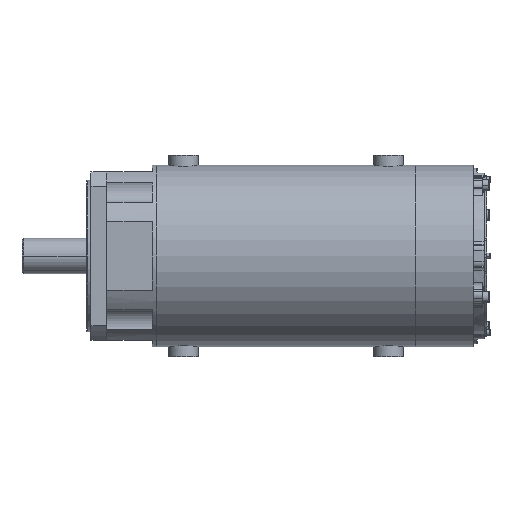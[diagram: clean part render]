
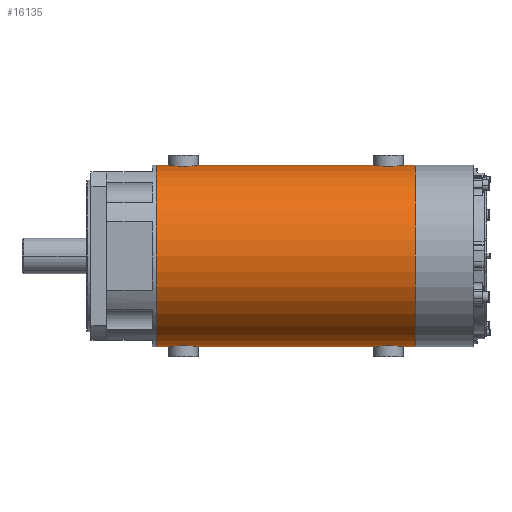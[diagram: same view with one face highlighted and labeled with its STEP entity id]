
A CAD part, front view. The second image highlights one B-rep face of the part: STEP entity #16135.
In plain terms, the highlighted cylindrical face has radius 108 mm (diameter 216 mm), a partial arc.
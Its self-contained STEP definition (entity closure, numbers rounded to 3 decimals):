
#10952=CARTESIAN_POINT('',(120.,0.,108.));
#10953=CARTESIAN_POINT('',(120.,-0.804,108.));
#10954=CARTESIAN_POINT('',(119.817,-2.372,
107.983));
#10955=CARTESIAN_POINT('',(118.927,-4.73,
107.904));
#10956=CARTESIAN_POINT('',(117.531,-6.728,
107.795));
#10957=CARTESIAN_POINT('',(115.671,-8.356,
107.679));
#10958=CARTESIAN_POINT('',(113.514,-9.469,
107.585));
#10959=CARTESIAN_POINT('',(111.087,-10.04,
107.532));
#10960=CARTESIAN_POINT('',(108.683,-10.011,
107.535));
#10961=CARTESIAN_POINT('',(106.305,-9.396,
107.592));
#10962=CARTESIAN_POINT('',(104.209,-8.269,
107.686));
#10963=CARTESIAN_POINT('',(102.401,-6.647,
107.8));
#10964=CARTESIAN_POINT('',(101.04,-4.662,
107.907));
#10965=CARTESIAN_POINT('',(100.174,-2.324,
107.984));
#10966=CARTESIAN_POINT('',(100.,-0.785,108.));
#10967=CARTESIAN_POINT('',(100.,0.,108.));
#10969=CARTESIAN_POINT('',(364.,0.,108.));
#10970=CARTESIAN_POINT('',(364.,-0.804,108.));
#10971=CARTESIAN_POINT('',(363.817,-2.372,
107.983));
#10972=CARTESIAN_POINT('',(362.927,-4.73,
107.904));
#10973=CARTESIAN_POINT('',(361.531,-6.728,
107.795));
#10974=CARTESIAN_POINT('',(359.671,-8.356,
107.679));
#10975=CARTESIAN_POINT('',(357.514,-9.469,
107.585));
#10976=CARTESIAN_POINT('',(355.087,-10.04,
107.532));
#10977=CARTESIAN_POINT('',(352.683,-10.011,
107.535));
#10978=CARTESIAN_POINT('',(350.305,-9.396,
107.592));
#10979=CARTESIAN_POINT('',(348.209,-8.269,
107.686));
#10980=CARTESIAN_POINT('',(346.401,-6.647,
107.8));
#10981=CARTESIAN_POINT('',(345.04,-4.662,
107.907));
#10982=CARTESIAN_POINT('',(344.174,-2.324,
107.984));
#10983=CARTESIAN_POINT('',(344.,-0.785,108.));
#10984=CARTESIAN_POINT('',(344.,0.,108.));
#10986=CARTESIAN_POINT('',(386.,0.,0.));
#10987=DIRECTION('',(1.,0.,0.));
#10988=DIRECTION('',(0.,0.,1.));
#10989=AXIS2_PLACEMENT_3D('',#10986,#10987,#10988);
#10991=DIRECTION('',(-1.,0.,0.));
#10992=VECTOR('',#10991,22.);
#10993=CARTESIAN_POINT('',(386.,0.,-108.));
#10994=LINE('',#10993,#10992);
#10995=CARTESIAN_POINT('',(344.,0.,-108.));
#10996=CARTESIAN_POINT('',(344.,-0.786,-108.));
#10997=CARTESIAN_POINT('',(344.175,-2.326,
-107.984));
#10998=CARTESIAN_POINT('',(345.039,-4.661,
-107.907));
#10999=CARTESIAN_POINT('',(346.401,-6.647,
-107.8));
#11000=CARTESIAN_POINT('',(348.209,-8.269,
-107.686));
#11001=CARTESIAN_POINT('',(350.305,-9.396,
-107.592));
#11002=CARTESIAN_POINT('',(352.683,-10.011,
-107.535));
#11003=CARTESIAN_POINT('',(355.086,-10.04,
-107.532));
#11004=CARTESIAN_POINT('',(357.514,-9.47,
-107.585));
#11005=CARTESIAN_POINT('',(359.671,-8.356,
-107.679));
#11006=CARTESIAN_POINT('',(361.531,-6.728,
-107.795));
#11007=CARTESIAN_POINT('',(362.927,-4.73,
-107.904));
#11008=CARTESIAN_POINT('',(363.817,-2.372,
-107.983));
#11009=CARTESIAN_POINT('',(364.,-0.803,-108.));
#11010=CARTESIAN_POINT('',(364.,0.,-108.));
#11012=DIRECTION('',(-1.,0.,0.));
#11013=VECTOR('',#11012,224.);
#11014=CARTESIAN_POINT('',(344.,0.,-108.));
#11015=LINE('',#11014,#11013);
#11016=CARTESIAN_POINT('',(100.,0.,-108.));
#11017=CARTESIAN_POINT('',(100.,-0.786,-108.));
#11018=CARTESIAN_POINT('',(100.175,-2.326,
-107.984));
#11019=CARTESIAN_POINT('',(101.039,-4.661,
-107.907));
#11020=CARTESIAN_POINT('',(102.401,-6.647,
-107.8));
#11021=CARTESIAN_POINT('',(104.209,-8.269,
-107.686));
#11022=CARTESIAN_POINT('',(106.305,-9.396,
-107.592));
#11023=CARTESIAN_POINT('',(108.683,-10.011,
-107.535));
#11024=CARTESIAN_POINT('',(111.086,-10.04,
-107.532));
#11025=CARTESIAN_POINT('',(113.514,-9.47,
-107.585));
#11026=CARTESIAN_POINT('',(115.671,-8.356,
-107.679));
#11027=CARTESIAN_POINT('',(117.531,-6.728,
-107.795));
#11028=CARTESIAN_POINT('',(118.927,-4.73,
-107.904));
#11029=CARTESIAN_POINT('',(119.817,-2.372,
-107.983));
#11030=CARTESIAN_POINT('',(120.,-0.803,-108.));
#11031=CARTESIAN_POINT('',(120.,0.,-108.));
#11033=DIRECTION('',(-1.,0.,0.));
#11034=VECTOR('',#11033,22.);
#11035=CARTESIAN_POINT('',(100.,0.,-108.));
#11036=LINE('',#11035,#11034);
#11037=CARTESIAN_POINT('',(78.,0.,0.));
#11038=DIRECTION('',(-1.,0.,0.));
#11039=DIRECTION('',(0.,0.,-1.));
#11040=AXIS2_PLACEMENT_3D('',#11037,#11038,#11039);
#15661=DIRECTION('',(-1.,0.,0.));
#15662=VECTOR('',#15661,22.);
#15663=CARTESIAN_POINT('',(100.,0.,108.));
#15664=LINE('',#15663,#15662);
#15709=DIRECTION('',(-1.,0.,0.));
#15710=VECTOR('',#15709,22.);
#15711=CARTESIAN_POINT('',(386.,0.,108.));
#15712=LINE('',#15711,#15710);
#15730=DIRECTION('',(-1.,0.,0.));
#15731=VECTOR('',#15730,224.);
#15732=CARTESIAN_POINT('',(344.,0.,108.));
#15733=LINE('',#15732,#15731);
#15770=CARTESIAN_POINT('',(386.,0.,-108.));
#15771=CARTESIAN_POINT('',(386.,0.,108.));
#15772=VERTEX_POINT('',#15770);
#15773=VERTEX_POINT('',#15771);
#15774=CARTESIAN_POINT('',(78.,0.,-108.));
#15775=CARTESIAN_POINT('',(78.,0.,108.));
#15776=VERTEX_POINT('',#15774);
#15777=VERTEX_POINT('',#15775);
#16080=VERTEX_POINT('',#11016);
#16081=VERTEX_POINT('',#11031);
#16082=VERTEX_POINT('',#10995);
#16083=VERTEX_POINT('',#11010);
#16088=CARTESIAN_POINT('',(120.,0.,108.));
#16090=VERTEX_POINT('',#16088);
#16092=CARTESIAN_POINT('',(100.,0.,108.));
#16094=VERTEX_POINT('',#16092);
#16096=CARTESIAN_POINT('',(364.,0.,108.));
#16098=VERTEX_POINT('',#16096);
#16100=CARTESIAN_POINT('',(344.,0.,108.));
#16102=VERTEX_POINT('',#16100);
#16104=CARTESIAN_POINT('',(386.,0.,0.));
#16105=DIRECTION('',(-1.,0.,0.));
#16106=DIRECTION('',(0.,0.,-1.));
#16107=AXIS2_PLACEMENT_3D('',#16104,#16105,#16106);
#16108=CYLINDRICAL_SURFACE('',#16107,108.);
#16110=ORIENTED_EDGE('',*,*,#16109,.F.);
#16112=ORIENTED_EDGE('',*,*,#16111,.F.);
#16114=ORIENTED_EDGE('',*,*,#16113,.F.);
#16116=ORIENTED_EDGE('',*,*,#16115,.F.);
#16118=ORIENTED_EDGE('',*,*,#16117,.T.);
#16120=ORIENTED_EDGE('',*,*,#16119,.T.);
#16122=ORIENTED_EDGE('',*,*,#16121,.F.);
#16124=ORIENTED_EDGE('',*,*,#16123,.T.);
#16126=ORIENTED_EDGE('',*,*,#16125,.F.);
#16128=ORIENTED_EDGE('',*,*,#16127,.T.);
#16130=ORIENTED_EDGE('',*,*,#16129,.T.);
#16132=ORIENTED_EDGE('',*,*,#16131,.F.);
#16133=EDGE_LOOP('',(#16110,#16112,#16114,#16116,#16118,#16120,#16122,#16124,
#16126,#16128,#16130,#16132));
#16134=FACE_OUTER_BOUND('',#16133,.F.);
#16135=ADVANCED_FACE('',(#16134),#16108,.T.);
#10968=B_SPLINE_CURVE_WITH_KNOTS('',3,(#10952,#10953,#10954,#10955,#10956,
#10957,#10958,#10959,#10960,#10961,#10962,#10963,#10964,#10965,#10966,#10967),
.UNSPECIFIED.,.F.,.F.,(4,1,1,1,1,1,1,1,1,1,1,1,1,4),(0.,0.077,
0.154,0.231,0.308,0.385,
0.462,0.538,0.615,0.692,
0.769,0.846,0.923,1.),.UNSPECIFIED.);
#10985=B_SPLINE_CURVE_WITH_KNOTS('',3,(#10969,#10970,#10971,#10972,#10973,
#10974,#10975,#10976,#10977,#10978,#10979,#10980,#10981,#10982,#10983,#10984),
.UNSPECIFIED.,.F.,.F.,(4,1,1,1,1,1,1,1,1,1,1,1,1,4),(0.,0.077,
0.154,0.231,0.308,0.385,
0.462,0.538,0.615,0.692,
0.769,0.846,0.923,1.),.UNSPECIFIED.);
#10990=CIRCLE('',#10989,108.);
#11011=B_SPLINE_CURVE_WITH_KNOTS('',3,(#10995,#10996,#10997,#10998,#10999,
#11000,#11001,#11002,#11003,#11004,#11005,#11006,#11007,#11008,#11009,#11010),
.UNSPECIFIED.,.F.,.F.,(4,1,1,1,1,1,1,1,1,1,1,1,1,4),(0.,0.077,
0.154,0.231,0.308,0.385,
0.462,0.538,0.615,0.692,
0.769,0.846,0.923,1.),.UNSPECIFIED.);
#11032=B_SPLINE_CURVE_WITH_KNOTS('',3,(#11016,#11017,#11018,#11019,#11020,
#11021,#11022,#11023,#11024,#11025,#11026,#11027,#11028,#11029,#11030,#11031),
.UNSPECIFIED.,.F.,.F.,(4,1,1,1,1,1,1,1,1,1,1,1,1,4),(0.,0.077,
0.154,0.231,0.308,0.385,
0.462,0.538,0.615,0.692,
0.769,0.846,0.923,1.),.UNSPECIFIED.);
#11041=CIRCLE('',#11040,108.);
#16109=EDGE_CURVE('',#16090,#16094,#10968,.T.);
#16111=EDGE_CURVE('',#16102,#16090,#15733,.T.);
#16113=EDGE_CURVE('',#16098,#16102,#10985,.T.);
#16115=EDGE_CURVE('',#15773,#16098,#15712,.T.);
#16117=EDGE_CURVE('',#15773,#15772,#10990,.T.);
#16119=EDGE_CURVE('',#15772,#16083,#10994,.T.);
#16121=EDGE_CURVE('',#16082,#16083,#11011,.T.);
#16123=EDGE_CURVE('',#16082,#16081,#11015,.T.);
#16125=EDGE_CURVE('',#16080,#16081,#11032,.T.);
#16127=EDGE_CURVE('',#16080,#15776,#11036,.T.);
#16129=EDGE_CURVE('',#15776,#15777,#11041,.T.);
#16131=EDGE_CURVE('',#16094,#15777,#15664,.T.);
